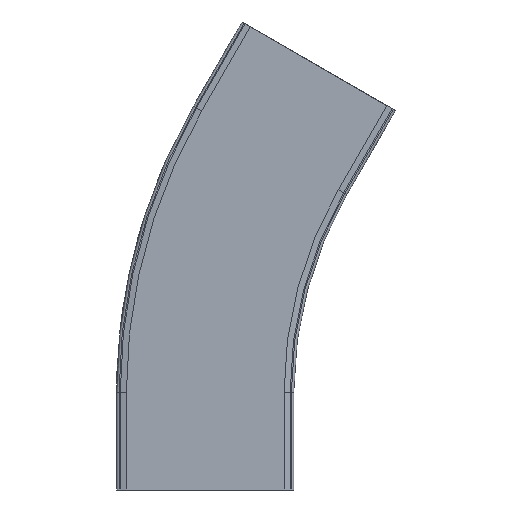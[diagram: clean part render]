
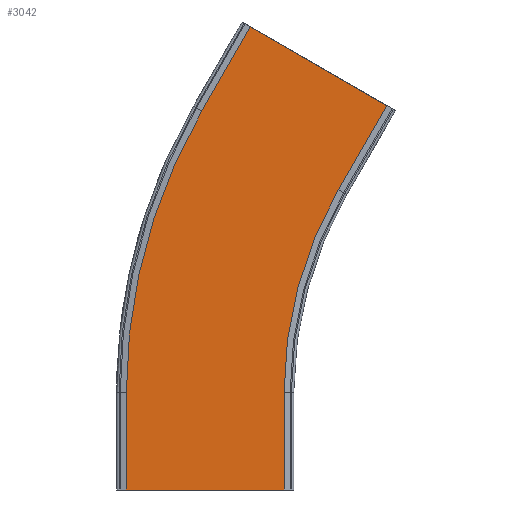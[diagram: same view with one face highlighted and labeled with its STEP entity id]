
A CAD part, front view. The second image highlights one B-rep face of the part: STEP entity #3042.
In plain terms, the highlighted planar face has unit normal (0, -1, 0).
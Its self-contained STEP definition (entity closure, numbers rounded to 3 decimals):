
#115=CIRCLE('',#3232,335.);
#116=CIRCLE('',#3234,465.);
#254=FACE_OUTER_BOUND('',#417,.T.);
#417=EDGE_LOOP('',(#2043,#2044,#2045,#2046,#2047,#2048,#2049,#2050));
#583=LINE('',#4262,#921);
#587=LINE('',#4269,#925);
#598=LINE('',#4302,#936);
#599=LINE('',#4304,#937);
#600=LINE('',#4305,#938);
#601=LINE('',#4306,#939);
#921=VECTOR('',#3460,10.);
#925=VECTOR('',#3466,10.);
#936=VECTOR('',#3497,10.);
#937=VECTOR('',#3498,10.);
#938=VECTOR('',#3499,10.);
#939=VECTOR('',#3500,10.);
#1259=VERTEX_POINT('',#4259);
#1260=VERTEX_POINT('',#4261);
#1262=VERTEX_POINT('',#4267);
#1271=VERTEX_POINT('',#4293);
#1272=VERTEX_POINT('',#4295);
#1273=VERTEX_POINT('',#4299);
#1274=VERTEX_POINT('',#4301);
#1275=VERTEX_POINT('',#4303);
#1559=EDGE_CURVE('',#1260,#1259,#583,.T.);
#1563=EDGE_CURVE('',#1262,#1259,#587,.T.);
#1576=EDGE_CURVE('',#1272,#1271,#115,.T.);
#1578=EDGE_CURVE('',#1273,#1262,#116,.T.);
#1579=EDGE_CURVE('',#1274,#1273,#598,.T.);
#1580=EDGE_CURVE('',#1274,#1275,#599,.T.);
#1581=EDGE_CURVE('',#1275,#1272,#600,.T.);
#1582=EDGE_CURVE('',#1271,#1260,#601,.T.);
#2043=ORIENTED_EDGE('',*,*,#1559,.T.);
#2044=ORIENTED_EDGE('',*,*,#1563,.F.);
#2045=ORIENTED_EDGE('',*,*,#1578,.F.);
#2046=ORIENTED_EDGE('',*,*,#1579,.F.);
#2047=ORIENTED_EDGE('',*,*,#1580,.T.);
#2048=ORIENTED_EDGE('',*,*,#1581,.T.);
#2049=ORIENTED_EDGE('',*,*,#1576,.T.);
#2050=ORIENTED_EDGE('',*,*,#1582,.T.);
#2933=PLANE('',#3233);
#3042=ADVANCED_FACE('',(#254),#2933,.T.);
#3232=AXIS2_PLACEMENT_3D('',#4296,#3490,#3491);
#3233=AXIS2_PLACEMENT_3D('',#4298,#3493,#3494);
#3234=AXIS2_PLACEMENT_3D('',#4300,#3495,#3496);
#3460=DIRECTION('',(-0.866,0.,0.5));
#3466=DIRECTION('',(0.5,0.,0.866));
#3490=DIRECTION('center_axis',(0.,1.,0.));
#3491=DIRECTION('ref_axis',(-1.,0.,0.));
#3493=DIRECTION('center_axis',(0.,-1.,0.));
#3494=DIRECTION('ref_axis',(-0.5,0.,-0.866));
#3495=DIRECTION('center_axis',(0.,1.,0.));
#3496=DIRECTION('ref_axis',(-1.,0.,0.));
#3497=DIRECTION('',(0.,0.,1.));
#3498=DIRECTION('',(1.,0.,0.));
#3499=DIRECTION('',(0.,0.,1.));
#3500=DIRECTION('',(0.5,0.,0.866));
#4259=CARTESIAN_POINT('',(76.299,-72.,381.782));
#4261=CARTESIAN_POINT('',(188.882,-72.,316.782));
#4262=CARTESIAN_POINT('',(159.437,-72.,333.782));
#4267=CARTESIAN_POINT('',(36.299,-72.,312.5));
#4269=CARTESIAN_POINT('',(-108.421,-72.,61.838));
#4293=CARTESIAN_POINT('',(148.882,-72.,247.5));
#4295=CARTESIAN_POINT('',(104.001,-72.,80.));
#4296=CARTESIAN_POINT('Origin',(439.001,-72.,80.));
#4298=CARTESIAN_POINT('Origin',(4.162,-72.,-3.162));
#4299=CARTESIAN_POINT('',(-25.999,-72.,80.));
#4300=CARTESIAN_POINT('Origin',(439.001,-72.,80.));
#4301=CARTESIAN_POINT('',(-25.999,-72.,0.));
#4302=CARTESIAN_POINT('',(-25.999,-72.,0.));
#4303=CARTESIAN_POINT('',(104.001,-72.,0.));
#4304=CARTESIAN_POINT('',(-25.999,-72.,0.));
#4305=CARTESIAN_POINT('',(104.001,-72.,0.));
#4306=CARTESIAN_POINT('',(4.162,-72.,-3.162));
